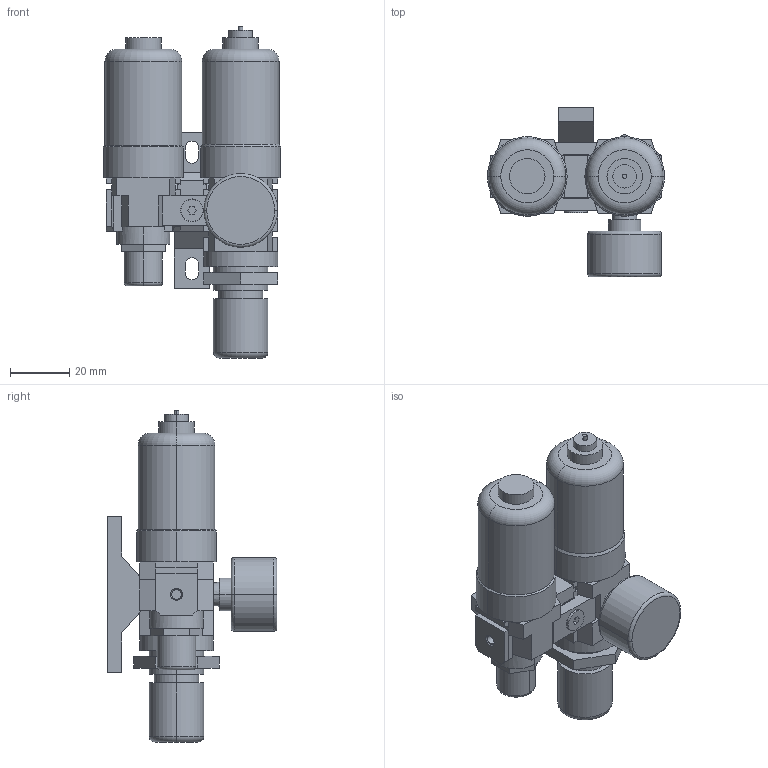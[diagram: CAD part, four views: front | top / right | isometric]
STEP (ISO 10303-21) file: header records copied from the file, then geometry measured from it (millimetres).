
FILE_DESCRIPTION (( 'STEP AP203' ), '1' );
FILE_NAME ('FRL100-M5M.STEP', '2021-06-30T17:39:59', ( '' ), ( '' ), 'SwSTEP 2.0', 'SolidWorks 2019', '' );
FILE_SCHEMA (( 'CONFIG_CONTROL_DESIGN' ));
Length unit declared in the file: millimetre
Products named in the file (1): FRL100-M5M
Bounding box: 60 x 57.5 x 112.5 mm (x, y, z)
Volume: 99417.3 mm3; surface area: 28943 mm2
Topology: 10 solids, 10 shells, 346 faces, 811 edges, 508 vertices
Faces by surface type: plane 234, cylinder 68, cone 32, torus 12
Entity records: 9828 total; most frequent: DIRECTION 1699, CARTESIAN_POINT 1666, ORIENTED_EDGE 1622, EDGE_CURVE 811, VECTOR 617, LINE 617, AXIS2_PLACEMENT_3D 541, VERTEX_POINT 508
